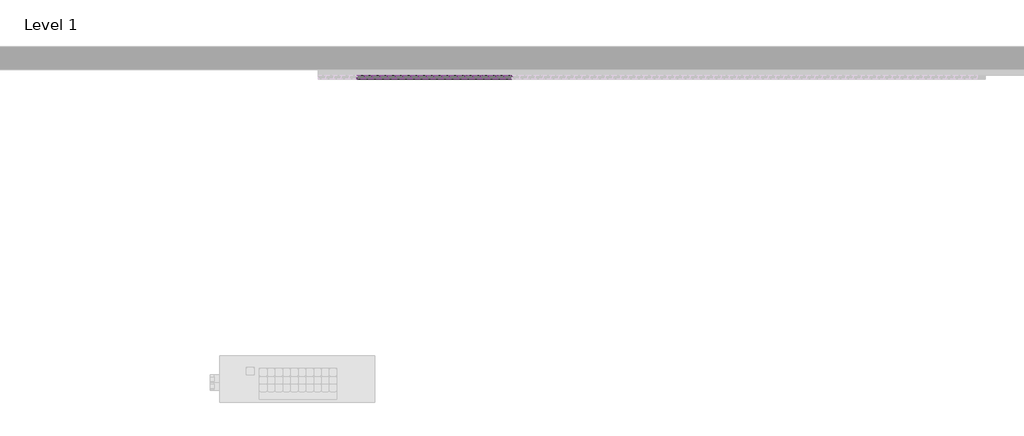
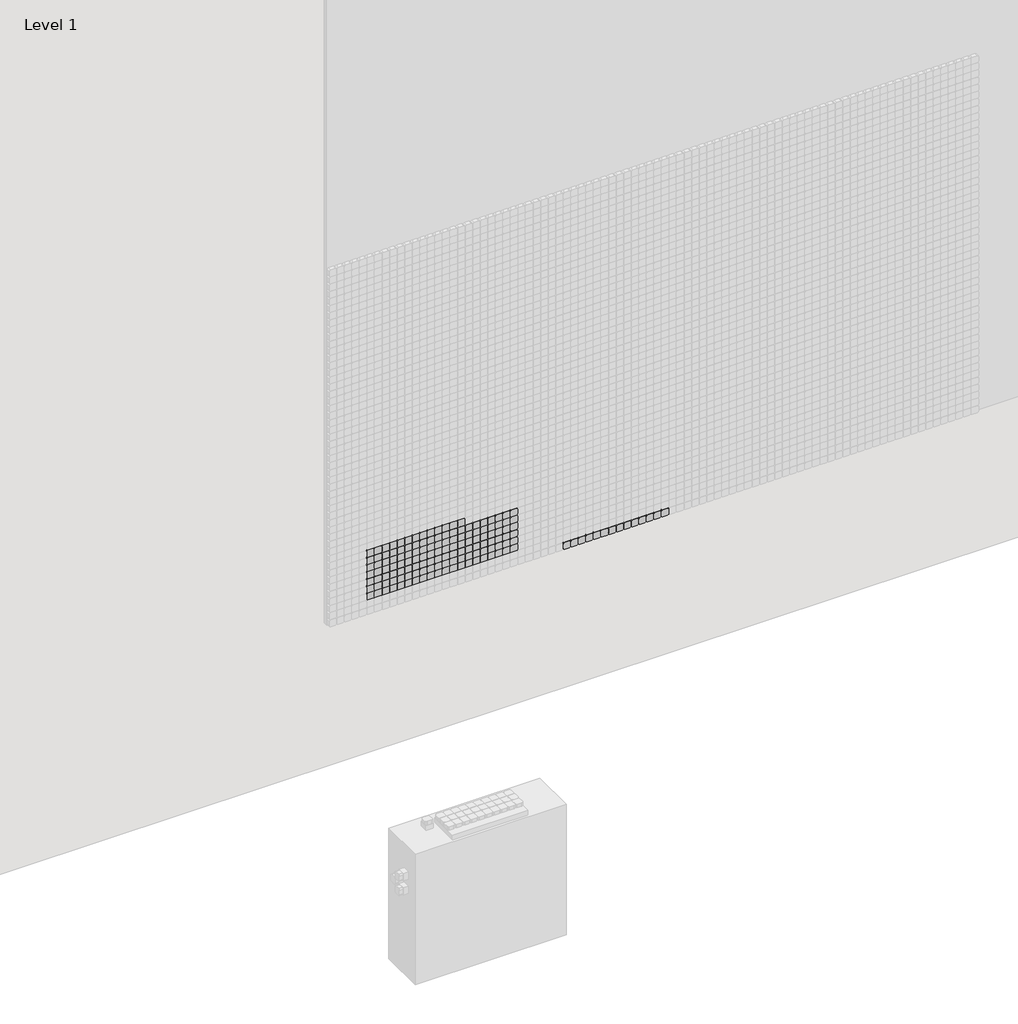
# One storey, part 20 of 71: 147 proxies.
"""IFC4 building model written with IfcOpenShell, lengths in millimetres."""

from ifc_helpers import new_model, si_unit, origin, place, context, project, spatial, transform, mapped, element, save
from components import generic_models_afde289c

model = new_model("IFC4")

# Units and contexts
model_context = context("Model", 3, world=origin())
ifc_project = project(units=[si_unit("LENGTHUNIT", "METRE", prefix="MILLI")], contexts=[model_context])

# Site, building, storey
site = spatial("IfcSite", under=ifc_project)
building = spatial("IfcBuilding", under=site)
storey = spatial("IfcBuildingStorey", under=building, Name="Level 1", Elevation=0.0)

# Proxies
placement = place(None, origin())
generic_models_shape = generic_models_afde289c(model_context)
element("IfcBuildingElementProxy", 1, Name="Pixel_M : Pixel_M", ObjectType="Pixel_M : Pixel_M", at=placement, inside=storey, context=model_context, shape_type="MappedRepresentation", body=[
    mapped(generic_models_shape, transform((6962.4280941, -75.0, 1016.3566215), x_axis=(1.0, 0.0, 0.0), y_axis=(0.0, 0.0, 1.0), z_axis=(0.0, -1.0, 0.0))),
])
element("IfcBuildingElementProxy", 2, Name="Pixel_M : Pixel_M", ObjectType="Pixel_M : Pixel_M", at=placement, inside=storey, context=model_context, shape_type="MappedRepresentation", body=[
    mapped(generic_models_shape, transform((6912.4280941, -75.0, 1016.3566215), x_axis=(1.0, 0.0, 0.0), y_axis=(0.0, 0.0, 1.0), z_axis=(0.0, -1.0, 0.0))),
])
element("IfcBuildingElementProxy", 3, Name="Pixel_M : Pixel_M", ObjectType="Pixel_M : Pixel_M", at=placement, inside=storey, context=model_context, shape_type="MappedRepresentation", body=[
    mapped(generic_models_shape, transform((6862.4280941, -75.0, 1016.3566215), x_axis=(1.0, 0.0, 0.0), y_axis=(0.0, 0.0, 1.0), z_axis=(0.0, -1.0, 0.0))),
])
element("IfcBuildingElementProxy", 4, Name="Pixel_M : Pixel_M", ObjectType="Pixel_M : Pixel_M", at=placement, inside=storey, context=model_context, shape_type="MappedRepresentation", body=[
    mapped(generic_models_shape, transform((6812.4280941, -75.0, 1016.3566215), x_axis=(1.0, 0.0, 0.0), y_axis=(0.0, 0.0, 1.0), z_axis=(0.0, -1.0, 0.0))),
])
element("IfcBuildingElementProxy", 5, Name="Pixel_M : Pixel_M", ObjectType="Pixel_M : Pixel_M", at=placement, inside=storey, context=model_context, shape_type="MappedRepresentation", body=[
    mapped(generic_models_shape, transform((6762.4280941, -75.0, 1016.3566215), x_axis=(1.0, 0.0, 0.0), y_axis=(0.0, 0.0, 1.0), z_axis=(0.0, -1.0, 0.0))),
])
element("IfcBuildingElementProxy", 6, Name="Pixel_M : Pixel_M", ObjectType="Pixel_M : Pixel_M", at=placement, inside=storey, context=model_context, shape_type="MappedRepresentation", body=[
    mapped(generic_models_shape, transform((6712.4280941, -75.0, 1016.3566215), x_axis=(1.0, 0.0, 0.0), y_axis=(0.0, 0.0, 1.0), z_axis=(0.0, -1.0, 0.0))),
])
element("IfcBuildingElementProxy", 7, Name="Pixel_M : Pixel_M", ObjectType="Pixel_M : Pixel_M", at=placement, inside=storey, context=model_context, shape_type="MappedRepresentation", body=[
    mapped(generic_models_shape, transform((6662.4280941, -75.0, 1016.3566215), x_axis=(1.0, 0.0, 0.0), y_axis=(0.0, 0.0, 1.0), z_axis=(0.0, -1.0, 0.0))),
])
element("IfcBuildingElementProxy", 8, Name="Pixel_M : Pixel_M", ObjectType="Pixel_M : Pixel_M", at=placement, inside=storey, context=model_context, shape_type="MappedRepresentation", body=[
    mapped(generic_models_shape, transform((6612.4280941, -75.0, 1016.3566215), x_axis=(1.0, 0.0, 0.0), y_axis=(0.0, 0.0, 1.0), z_axis=(0.0, -1.0, 0.0))),
])
element("IfcBuildingElementProxy", 9, Name="Pixel_M : Pixel_M", ObjectType="Pixel_M : Pixel_M", at=placement, inside=storey, context=model_context, shape_type="MappedRepresentation", body=[
    mapped(generic_models_shape, transform((6562.4280941, -75.0, 1016.3566215), x_axis=(1.0, 0.0, 0.0), y_axis=(0.0, 0.0, 1.0), z_axis=(0.0, -1.0, 0.0))),
])
element("IfcBuildingElementProxy", 10, Name="Pixel_M : Pixel_M", ObjectType="Pixel_M : Pixel_M", at=placement, inside=storey, context=model_context, shape_type="MappedRepresentation", body=[
    mapped(generic_models_shape, transform((6512.4280941, -75.0, 1016.3566215), x_axis=(1.0, 0.0, 0.0), y_axis=(0.0, 0.0, 1.0), z_axis=(0.0, -1.0, 0.0))),
])
element("IfcBuildingElementProxy", 11, Name="Pixel_M : Pixel_M", ObjectType="Pixel_M : Pixel_M", at=placement, inside=storey, context=model_context, shape_type="MappedRepresentation", body=[
    mapped(generic_models_shape, transform((6462.4280941, -75.0, 1016.3566215), x_axis=(1.0, 0.0, 0.0), y_axis=(0.0, 0.0, 1.0), z_axis=(0.0, -1.0, 0.0))),
])
element("IfcBuildingElementProxy", 12, Name="Pixel_M : Pixel_M", ObjectType="Pixel_M : Pixel_M", at=placement, inside=storey, context=model_context, shape_type="MappedRepresentation", body=[
    mapped(generic_models_shape, transform((6412.4280941, -75.0, 1016.3566215), x_axis=(1.0, 0.0, 0.0), y_axis=(0.0, 0.0, 1.0), z_axis=(0.0, -1.0, 0.0))),
])
element("IfcBuildingElementProxy", 13, Name="Pixel_M : Pixel_M", ObjectType="Pixel_M : Pixel_M", at=placement, inside=storey, context=model_context, shape_type="MappedRepresentation", body=[
    mapped(generic_models_shape, transform((6362.4280941, -75.0, 1016.3566215), x_axis=(1.0, 0.0, 0.0), y_axis=(0.0, 0.0, 1.0), z_axis=(0.0, -1.0, 0.0))),
])
element("IfcBuildingElementProxy", 14, Name="Pixel_M : Pixel_M", ObjectType="Pixel_M : Pixel_M", at=placement, inside=storey, context=model_context, shape_type="MappedRepresentation", body=[
    mapped(generic_models_shape, transform((6312.4280941, -75.0, 1016.3566215), x_axis=(1.0, 0.0, 0.0), y_axis=(0.0, 0.0, 1.0), z_axis=(0.0, -1.0, 0.0))),
])
element("IfcBuildingElementProxy", 15, Name="Pixel_M : Pixel_M", ObjectType="Pixel_M : Pixel_M", at=placement, inside=storey, context=model_context, shape_type="MappedRepresentation", body=[
    mapped(generic_models_shape, transform((5612.4280941, -75.0, 1416.3566215), x_axis=(1.0, 0.0, 0.0), y_axis=(0.0, 0.0, 1.0), z_axis=(0.0, -1.0, 0.0))),
])
element("IfcBuildingElementProxy", 16, Name="Pixel_M : Pixel_M", ObjectType="Pixel_M : Pixel_M", at=placement, inside=storey, context=model_context, shape_type="MappedRepresentation", body=[
    mapped(generic_models_shape, transform((5562.4280941, -75.0, 1416.3566215), x_axis=(1.0, 0.0, 0.0), y_axis=(0.0, 0.0, 1.0), z_axis=(0.0, -1.0, 0.0))),
])
element("IfcBuildingElementProxy", 17, Name="Pixel_M : Pixel_M", ObjectType="Pixel_M : Pixel_M", at=placement, inside=storey, context=model_context, shape_type="MappedRepresentation", body=[
    mapped(generic_models_shape, transform((5512.4280941, -75.0, 1416.3566215), x_axis=(1.0, 0.0, 0.0), y_axis=(0.0, 0.0, 1.0), z_axis=(0.0, -1.0, 0.0))),
])
element("IfcBuildingElementProxy", 18, Name="Pixel_M : Pixel_M", ObjectType="Pixel_M : Pixel_M", at=placement, inside=storey, context=model_context, shape_type="MappedRepresentation", body=[
    mapped(generic_models_shape, transform((5462.4280941, -75.0, 1416.3566215), x_axis=(1.0, 0.0, 0.0), y_axis=(0.0, 0.0, 1.0), z_axis=(0.0, -1.0, 0.0))),
])
element("IfcBuildingElementProxy", 19, Name="Pixel_M : Pixel_M", ObjectType="Pixel_M : Pixel_M", at=placement, inside=storey, context=model_context, shape_type="MappedRepresentation", body=[
    mapped(generic_models_shape, transform((5412.4280941, -75.0, 1416.3566215), x_axis=(1.0, 0.0, 0.0), y_axis=(0.0, 0.0, 1.0), z_axis=(0.0, -1.0, 0.0))),
])
element("IfcBuildingElementProxy", 20, Name="Pixel_M : Pixel_M", ObjectType="Pixel_M : Pixel_M", at=placement, inside=storey, context=model_context, shape_type="MappedRepresentation", body=[
    mapped(generic_models_shape, transform((5362.4280941, -75.0, 1416.3566215), x_axis=(1.0, 0.0, 0.0), y_axis=(0.0, 0.0, 1.0), z_axis=(0.0, -1.0, 0.0))),
])
element("IfcBuildingElementProxy", 21, Name="Pixel_M : Pixel_M", ObjectType="Pixel_M : Pixel_M", at=placement, inside=storey, context=model_context, shape_type="MappedRepresentation", body=[
    mapped(generic_models_shape, transform((5312.4280941, -75.0, 1416.3566215), x_axis=(1.0, 0.0, 0.0), y_axis=(0.0, 0.0, 1.0), z_axis=(0.0, -1.0, 0.0))),
])
element("IfcBuildingElementProxy", 22, Name="Pixel_M : Pixel_M", ObjectType="Pixel_M : Pixel_M", at=placement, inside=storey, context=model_context, shape_type="MappedRepresentation", body=[
    mapped(generic_models_shape, transform((5262.4280941, -75.0, 1416.3566215), x_axis=(1.0, 0.0, 0.0), y_axis=(0.0, 0.0, 1.0), z_axis=(0.0, -1.0, 0.0))),
])
element("IfcBuildingElementProxy", 23, Name="Pixel_M : Pixel_M", ObjectType="Pixel_M : Pixel_M", at=placement, inside=storey, context=model_context, shape_type="MappedRepresentation", body=[
    mapped(generic_models_shape, transform((5212.4280941, -75.0, 1416.3566215), x_axis=(1.0, 0.0, 0.0), y_axis=(0.0, 0.0, 1.0), z_axis=(0.0, -1.0, 0.0))),
])
element("IfcBuildingElementProxy", 24, Name="Pixel_M : Pixel_M", ObjectType="Pixel_M : Pixel_M", at=placement, inside=storey, context=model_context, shape_type="MappedRepresentation", body=[
    mapped(generic_models_shape, transform((5162.4280941, -75.0, 1416.3566215), x_axis=(1.0, 0.0, 0.0), y_axis=(0.0, 0.0, 1.0), z_axis=(0.0, -1.0, 0.0))),
])
element("IfcBuildingElementProxy", 25, Name="Pixel_M : Pixel_M", ObjectType="Pixel_M : Pixel_M", at=placement, inside=storey, context=model_context, shape_type="MappedRepresentation", body=[
    mapped(generic_models_shape, transform((5112.4280941, -75.0, 1416.3566215), x_axis=(1.0, 0.0, 0.0), y_axis=(0.0, 0.0, 1.0), z_axis=(0.0, -1.0, 0.0))),
])
element("IfcBuildingElementProxy", 26, Name="Pixel_M : Pixel_M", ObjectType="Pixel_M : Pixel_M", at=placement, inside=storey, context=model_context, shape_type="MappedRepresentation", body=[
    mapped(generic_models_shape, transform((5062.4280941, -75.0, 1416.3566215), x_axis=(1.0, 0.0, 0.0), y_axis=(0.0, 0.0, 1.0), z_axis=(0.0, -1.0, 0.0))),
])
element("IfcBuildingElementProxy", 27, Name="Pixel_M : Pixel_M", ObjectType="Pixel_M : Pixel_M", at=placement, inside=storey, context=model_context, shape_type="MappedRepresentation", body=[
    mapped(generic_models_shape, transform((5012.4280941, -75.0, 1416.3566215), x_axis=(1.0, 0.0, 0.0), y_axis=(0.0, 0.0, 1.0), z_axis=(0.0, -1.0, 0.0))),
])
element("IfcBuildingElementProxy", 28, Name="Pixel_M : Pixel_M", ObjectType="Pixel_M : Pixel_M", at=placement, inside=storey, context=model_context, shape_type="MappedRepresentation", body=[
    mapped(generic_models_shape, transform((5962.4280941, -75.0, 1366.3566215), x_axis=(1.0, 0.0, 0.0), y_axis=(0.0, 0.0, 1.0), z_axis=(0.0, -1.0, 0.0))),
])
element("IfcBuildingElementProxy", 29, Name="Pixel_M : Pixel_M", ObjectType="Pixel_M : Pixel_M", at=placement, inside=storey, context=model_context, shape_type="MappedRepresentation", body=[
    mapped(generic_models_shape, transform((5912.4280941, -75.0, 1366.3566215), x_axis=(1.0, 0.0, 0.0), y_axis=(0.0, 0.0, 1.0), z_axis=(0.0, -1.0, 0.0))),
])
element("IfcBuildingElementProxy", 30, Name="Pixel_M : Pixel_M", ObjectType="Pixel_M : Pixel_M", at=placement, inside=storey, context=model_context, shape_type="MappedRepresentation", body=[
    mapped(generic_models_shape, transform((5862.4280941, -75.0, 1366.3566215), x_axis=(1.0, 0.0, 0.0), y_axis=(0.0, 0.0, 1.0), z_axis=(0.0, -1.0, 0.0))),
])
element("IfcBuildingElementProxy", 31, Name="Pixel_M : Pixel_M", ObjectType="Pixel_M : Pixel_M", at=placement, inside=storey, context=model_context, shape_type="MappedRepresentation", body=[
    mapped(generic_models_shape, transform((5812.4280941, -75.0, 1366.3566215), x_axis=(1.0, 0.0, 0.0), y_axis=(0.0, 0.0, 1.0), z_axis=(0.0, -1.0, 0.0))),
])
element("IfcBuildingElementProxy", 32, Name="Pixel_M : Pixel_M", ObjectType="Pixel_M : Pixel_M", at=placement, inside=storey, context=model_context, shape_type="MappedRepresentation", body=[
    mapped(generic_models_shape, transform((5762.4280941, -75.0, 1366.3566215), x_axis=(1.0, 0.0, 0.0), y_axis=(0.0, 0.0, 1.0), z_axis=(0.0, -1.0, 0.0))),
])
element("IfcBuildingElementProxy", 33, Name="Pixel_M : Pixel_M", ObjectType="Pixel_M : Pixel_M", at=placement, inside=storey, context=model_context, shape_type="MappedRepresentation", body=[
    mapped(generic_models_shape, transform((5712.4280941, -75.0, 1366.3566215), x_axis=(1.0, 0.0, 0.0), y_axis=(0.0, 0.0, 1.0), z_axis=(0.0, -1.0, 0.0))),
])
element("IfcBuildingElementProxy", 34, Name="Pixel_M : Pixel_M", ObjectType="Pixel_M : Pixel_M", at=placement, inside=storey, context=model_context, shape_type="MappedRepresentation", body=[
    mapped(generic_models_shape, transform((5662.4280941, -75.0, 1366.3566215), x_axis=(1.0, 0.0, 0.0), y_axis=(0.0, 0.0, 1.0), z_axis=(0.0, -1.0, 0.0))),
])
element("IfcBuildingElementProxy", 35, Name="Pixel_M : Pixel_M", ObjectType="Pixel_M : Pixel_M", at=placement, inside=storey, context=model_context, shape_type="MappedRepresentation", body=[
    mapped(generic_models_shape, transform((5612.4280941, -75.0, 1366.3566215), x_axis=(1.0, 0.0, 0.0), y_axis=(0.0, 0.0, 1.0), z_axis=(0.0, -1.0, 0.0))),
])
element("IfcBuildingElementProxy", 36, Name="Pixel_M : Pixel_M", ObjectType="Pixel_M : Pixel_M", at=placement, inside=storey, context=model_context, shape_type="MappedRepresentation", body=[
    mapped(generic_models_shape, transform((5562.4280941, -75.0, 1366.3566215), x_axis=(1.0, 0.0, 0.0), y_axis=(0.0, 0.0, 1.0), z_axis=(0.0, -1.0, 0.0))),
])
element("IfcBuildingElementProxy", 37, Name="Pixel_M : Pixel_M", ObjectType="Pixel_M : Pixel_M", at=placement, inside=storey, context=model_context, shape_type="MappedRepresentation", body=[
    mapped(generic_models_shape, transform((5512.4280941, -75.0, 1366.3566215), x_axis=(1.0, 0.0, 0.0), y_axis=(0.0, 0.0, 1.0), z_axis=(0.0, -1.0, 0.0))),
])
element("IfcBuildingElementProxy", 38, Name="Pixel_M : Pixel_M", ObjectType="Pixel_M : Pixel_M", at=placement, inside=storey, context=model_context, shape_type="MappedRepresentation", body=[
    mapped(generic_models_shape, transform((5462.4280941, -75.0, 1366.3566215), x_axis=(1.0, 0.0, 0.0), y_axis=(0.0, 0.0, 1.0), z_axis=(0.0, -1.0, 0.0))),
])
element("IfcBuildingElementProxy", 39, Name="Pixel_M : Pixel_M", ObjectType="Pixel_M : Pixel_M", at=placement, inside=storey, context=model_context, shape_type="MappedRepresentation", body=[
    mapped(generic_models_shape, transform((5412.4280941, -75.0, 1366.3566215), x_axis=(1.0, 0.0, 0.0), y_axis=(0.0, 0.0, 1.0), z_axis=(0.0, -1.0, 0.0))),
])
element("IfcBuildingElementProxy", 40, Name="Pixel_M : Pixel_M", ObjectType="Pixel_M : Pixel_M", at=placement, inside=storey, context=model_context, shape_type="MappedRepresentation", body=[
    mapped(generic_models_shape, transform((5362.4280941, -75.0, 1366.3566215), x_axis=(1.0, 0.0, 0.0), y_axis=(0.0, 0.0, 1.0), z_axis=(0.0, -1.0, 0.0))),
])
element("IfcBuildingElementProxy", 41, Name="Pixel_M : Pixel_M", ObjectType="Pixel_M : Pixel_M", at=placement, inside=storey, context=model_context, shape_type="MappedRepresentation", body=[
    mapped(generic_models_shape, transform((5312.4280941, -75.0, 1366.3566215), x_axis=(1.0, 0.0, 0.0), y_axis=(0.0, 0.0, 1.0), z_axis=(0.0, -1.0, 0.0))),
])
element("IfcBuildingElementProxy", 42, Name="Pixel_M : Pixel_M", ObjectType="Pixel_M : Pixel_M", at=placement, inside=storey, context=model_context, shape_type="MappedRepresentation", body=[
    mapped(generic_models_shape, transform((5262.4280941, -75.0, 1366.3566215), x_axis=(1.0, 0.0, 0.0), y_axis=(0.0, 0.0, 1.0), z_axis=(0.0, -1.0, 0.0))),
])
element("IfcBuildingElementProxy", 43, Name="Pixel_M : Pixel_M", ObjectType="Pixel_M : Pixel_M", at=placement, inside=storey, context=model_context, shape_type="MappedRepresentation", body=[
    mapped(generic_models_shape, transform((5212.4280941, -75.0, 1366.3566215), x_axis=(1.0, 0.0, 0.0), y_axis=(0.0, 0.0, 1.0), z_axis=(0.0, -1.0, 0.0))),
])
element("IfcBuildingElementProxy", 44, Name="Pixel_M : Pixel_M", ObjectType="Pixel_M : Pixel_M", at=placement, inside=storey, context=model_context, shape_type="MappedRepresentation", body=[
    mapped(generic_models_shape, transform((5162.4280941, -75.0, 1366.3566215), x_axis=(1.0, 0.0, 0.0), y_axis=(0.0, 0.0, 1.0), z_axis=(0.0, -1.0, 0.0))),
])
element("IfcBuildingElementProxy", 45, Name="Pixel_M : Pixel_M", ObjectType="Pixel_M : Pixel_M", at=placement, inside=storey, context=model_context, shape_type="MappedRepresentation", body=[
    mapped(generic_models_shape, transform((5112.4280941, -75.0, 1366.3566215), x_axis=(1.0, 0.0, 0.0), y_axis=(0.0, 0.0, 1.0), z_axis=(0.0, -1.0, 0.0))),
])
element("IfcBuildingElementProxy", 46, Name="Pixel_M : Pixel_M", ObjectType="Pixel_M : Pixel_M", at=placement, inside=storey, context=model_context, shape_type="MappedRepresentation", body=[
    mapped(generic_models_shape, transform((5062.4280941, -75.0, 1366.3566215), x_axis=(1.0, 0.0, 0.0), y_axis=(0.0, 0.0, 1.0), z_axis=(0.0, -1.0, 0.0))),
])
element("IfcBuildingElementProxy", 47, Name="Pixel_M : Pixel_M", ObjectType="Pixel_M : Pixel_M", at=placement, inside=storey, context=model_context, shape_type="MappedRepresentation", body=[
    mapped(generic_models_shape, transform((5012.4280941, -75.0, 1366.3566215), x_axis=(1.0, 0.0, 0.0), y_axis=(0.0, 0.0, 1.0), z_axis=(0.0, -1.0, 0.0))),
])
element("IfcBuildingElementProxy", 48, Name="Pixel_M : Pixel_M", ObjectType="Pixel_M : Pixel_M", at=placement, inside=storey, context=model_context, shape_type="MappedRepresentation", body=[
    mapped(generic_models_shape, transform((5962.4280941, -75.0, 1316.3566215), x_axis=(1.0, 0.0, 0.0), y_axis=(0.0, 0.0, 1.0), z_axis=(0.0, -1.0, 0.0))),
])
element("IfcBuildingElementProxy", 49, Name="Pixel_M : Pixel_M", ObjectType="Pixel_M : Pixel_M", at=placement, inside=storey, context=model_context, shape_type="MappedRepresentation", body=[
    mapped(generic_models_shape, transform((5912.4280941, -75.0, 1316.3566215), x_axis=(1.0, 0.0, 0.0), y_axis=(0.0, 0.0, 1.0), z_axis=(0.0, -1.0, 0.0))),
])
element("IfcBuildingElementProxy", 50, Name="Pixel_M : Pixel_M", ObjectType="Pixel_M : Pixel_M", at=placement, inside=storey, context=model_context, shape_type="MappedRepresentation", body=[
    mapped(generic_models_shape, transform((5862.4280941, -75.0, 1316.3566215), x_axis=(1.0, 0.0, 0.0), y_axis=(0.0, 0.0, 1.0), z_axis=(0.0, -1.0, 0.0))),
])
element("IfcBuildingElementProxy", 51, Name="Pixel_M : Pixel_M", ObjectType="Pixel_M : Pixel_M", at=placement, inside=storey, context=model_context, shape_type="MappedRepresentation", body=[
    mapped(generic_models_shape, transform((5812.4280941, -75.0, 1316.3566215), x_axis=(1.0, 0.0, 0.0), y_axis=(0.0, 0.0, 1.0), z_axis=(0.0, -1.0, 0.0))),
])
element("IfcBuildingElementProxy", 52, Name="Pixel_M : Pixel_M", ObjectType="Pixel_M : Pixel_M", at=placement, inside=storey, context=model_context, shape_type="MappedRepresentation", body=[
    mapped(generic_models_shape, transform((5762.4280941, -75.0, 1316.3566215), x_axis=(1.0, 0.0, 0.0), y_axis=(0.0, 0.0, 1.0), z_axis=(0.0, -1.0, 0.0))),
])
element("IfcBuildingElementProxy", 53, Name="Pixel_M : Pixel_M", ObjectType="Pixel_M : Pixel_M", at=placement, inside=storey, context=model_context, shape_type="MappedRepresentation", body=[
    mapped(generic_models_shape, transform((5712.4280941, -75.0, 1316.3566215), x_axis=(1.0, 0.0, 0.0), y_axis=(0.0, 0.0, 1.0), z_axis=(0.0, -1.0, 0.0))),
])
element("IfcBuildingElementProxy", 54, Name="Pixel_M : Pixel_M", ObjectType="Pixel_M : Pixel_M", at=placement, inside=storey, context=model_context, shape_type="MappedRepresentation", body=[
    mapped(generic_models_shape, transform((5662.4280941, -75.0, 1316.3566215), x_axis=(1.0, 0.0, 0.0), y_axis=(0.0, 0.0, 1.0), z_axis=(0.0, -1.0, 0.0))),
])
element("IfcBuildingElementProxy", 55, Name="Pixel_M : Pixel_M", ObjectType="Pixel_M : Pixel_M", at=placement, inside=storey, context=model_context, shape_type="MappedRepresentation", body=[
    mapped(generic_models_shape, transform((5612.4280941, -75.0, 1316.3566215), x_axis=(1.0, 0.0, 0.0), y_axis=(0.0, 0.0, 1.0), z_axis=(0.0, -1.0, 0.0))),
])
element("IfcBuildingElementProxy", 56, Name="Pixel_M : Pixel_M", ObjectType="Pixel_M : Pixel_M", at=placement, inside=storey, context=model_context, shape_type="MappedRepresentation", body=[
    mapped(generic_models_shape, transform((5562.4280941, -75.0, 1316.3566215), x_axis=(1.0, 0.0, 0.0), y_axis=(0.0, 0.0, 1.0), z_axis=(0.0, -1.0, 0.0))),
])
element("IfcBuildingElementProxy", 57, Name="Pixel_M : Pixel_M", ObjectType="Pixel_M : Pixel_M", at=placement, inside=storey, context=model_context, shape_type="MappedRepresentation", body=[
    mapped(generic_models_shape, transform((5512.4280941, -75.0, 1316.3566215), x_axis=(1.0, 0.0, 0.0), y_axis=(0.0, 0.0, 1.0), z_axis=(0.0, -1.0, 0.0))),
])
element("IfcBuildingElementProxy", 58, Name="Pixel_M : Pixel_M", ObjectType="Pixel_M : Pixel_M", at=placement, inside=storey, context=model_context, shape_type="MappedRepresentation", body=[
    mapped(generic_models_shape, transform((5462.4280941, -75.0, 1316.3566215), x_axis=(1.0, 0.0, 0.0), y_axis=(0.0, 0.0, 1.0), z_axis=(0.0, -1.0, 0.0))),
])
element("IfcBuildingElementProxy", 59, Name="Pixel_M : Pixel_M", ObjectType="Pixel_M : Pixel_M", at=placement, inside=storey, context=model_context, shape_type="MappedRepresentation", body=[
    mapped(generic_models_shape, transform((5412.4280941, -75.0, 1316.3566215), x_axis=(1.0, 0.0, 0.0), y_axis=(0.0, 0.0, 1.0), z_axis=(0.0, -1.0, 0.0))),
])
element("IfcBuildingElementProxy", 60, Name="Pixel_M : Pixel_M", ObjectType="Pixel_M : Pixel_M", at=placement, inside=storey, context=model_context, shape_type="MappedRepresentation", body=[
    mapped(generic_models_shape, transform((5362.4280941, -75.0, 1316.3566215), x_axis=(1.0, 0.0, 0.0), y_axis=(0.0, 0.0, 1.0), z_axis=(0.0, -1.0, 0.0))),
])
element("IfcBuildingElementProxy", 61, Name="Pixel_M : Pixel_M", ObjectType="Pixel_M : Pixel_M", at=placement, inside=storey, context=model_context, shape_type="MappedRepresentation", body=[
    mapped(generic_models_shape, transform((5312.4280941, -75.0, 1316.3566215), x_axis=(1.0, 0.0, 0.0), y_axis=(0.0, 0.0, 1.0), z_axis=(0.0, -1.0, 0.0))),
])
element("IfcBuildingElementProxy", 62, Name="Pixel_M : Pixel_M", ObjectType="Pixel_M : Pixel_M", at=placement, inside=storey, context=model_context, shape_type="MappedRepresentation", body=[
    mapped(generic_models_shape, transform((5262.4280941, -75.0, 1316.3566215), x_axis=(1.0, 0.0, 0.0), y_axis=(0.0, 0.0, 1.0), z_axis=(0.0, -1.0, 0.0))),
])
element("IfcBuildingElementProxy", 63, Name="Pixel_M : Pixel_M", ObjectType="Pixel_M : Pixel_M", at=placement, inside=storey, context=model_context, shape_type="MappedRepresentation", body=[
    mapped(generic_models_shape, transform((5212.4280941, -75.0, 1316.3566215), x_axis=(1.0, 0.0, 0.0), y_axis=(0.0, 0.0, 1.0), z_axis=(0.0, -1.0, 0.0))),
])
element("IfcBuildingElementProxy", 64, Name="Pixel_M : Pixel_M", ObjectType="Pixel_M : Pixel_M", at=placement, inside=storey, context=model_context, shape_type="MappedRepresentation", body=[
    mapped(generic_models_shape, transform((5162.4280941, -75.0, 1316.3566215), x_axis=(1.0, 0.0, 0.0), y_axis=(0.0, 0.0, 1.0), z_axis=(0.0, -1.0, 0.0))),
])
element("IfcBuildingElementProxy", 65, Name="Pixel_M : Pixel_M", ObjectType="Pixel_M : Pixel_M", at=placement, inside=storey, context=model_context, shape_type="MappedRepresentation", body=[
    mapped(generic_models_shape, transform((5112.4280941, -75.0, 1316.3566215), x_axis=(1.0, 0.0, 0.0), y_axis=(0.0, 0.0, 1.0), z_axis=(0.0, -1.0, 0.0))),
])
element("IfcBuildingElementProxy", 66, Name="Pixel_M : Pixel_M", ObjectType="Pixel_M : Pixel_M", at=placement, inside=storey, context=model_context, shape_type="MappedRepresentation", body=[
    mapped(generic_models_shape, transform((5062.4280941, -75.0, 1316.3566215), x_axis=(1.0, 0.0, 0.0), y_axis=(0.0, 0.0, 1.0), z_axis=(0.0, -1.0, 0.0))),
])
element("IfcBuildingElementProxy", 67, Name="Pixel_M : Pixel_M", ObjectType="Pixel_M : Pixel_M", at=placement, inside=storey, context=model_context, shape_type="MappedRepresentation", body=[
    mapped(generic_models_shape, transform((5012.4280941, -75.0, 1316.3566215), x_axis=(1.0, 0.0, 0.0), y_axis=(0.0, 0.0, 1.0), z_axis=(0.0, -1.0, 0.0))),
])
element("IfcBuildingElementProxy", 68, Name="Pixel_M : Pixel_M", ObjectType="Pixel_M : Pixel_M", at=placement, inside=storey, context=model_context, shape_type="MappedRepresentation", body=[
    mapped(generic_models_shape, transform((5962.4280941, -75.0, 1266.3566215), x_axis=(1.0, 0.0, 0.0), y_axis=(0.0, 0.0, 1.0), z_axis=(0.0, -1.0, 0.0))),
])
element("IfcBuildingElementProxy", 69, Name="Pixel_M : Pixel_M", ObjectType="Pixel_M : Pixel_M", at=placement, inside=storey, context=model_context, shape_type="MappedRepresentation", body=[
    mapped(generic_models_shape, transform((5912.4280941, -75.0, 1266.3566215), x_axis=(1.0, 0.0, 0.0), y_axis=(0.0, 0.0, 1.0), z_axis=(0.0, -1.0, 0.0))),
])
element("IfcBuildingElementProxy", 70, Name="Pixel_M : Pixel_M", ObjectType="Pixel_M : Pixel_M", at=placement, inside=storey, context=model_context, shape_type="MappedRepresentation", body=[
    mapped(generic_models_shape, transform((5862.4280941, -75.0, 1266.3566215), x_axis=(1.0, 0.0, 0.0), y_axis=(0.0, 0.0, 1.0), z_axis=(0.0, -1.0, 0.0))),
])
element("IfcBuildingElementProxy", 71, Name="Pixel_M : Pixel_M", ObjectType="Pixel_M : Pixel_M", at=placement, inside=storey, context=model_context, shape_type="MappedRepresentation", body=[
    mapped(generic_models_shape, transform((5812.4280941, -75.0, 1266.3566215), x_axis=(1.0, 0.0, 0.0), y_axis=(0.0, 0.0, 1.0), z_axis=(0.0, -1.0, 0.0))),
])
element("IfcBuildingElementProxy", 72, Name="Pixel_M : Pixel_M", ObjectType="Pixel_M : Pixel_M", at=placement, inside=storey, context=model_context, shape_type="MappedRepresentation", body=[
    mapped(generic_models_shape, transform((5762.4280941, -75.0, 1266.3566215), x_axis=(1.0, 0.0, 0.0), y_axis=(0.0, 0.0, 1.0), z_axis=(0.0, -1.0, 0.0))),
])
element("IfcBuildingElementProxy", 73, Name="Pixel_M : Pixel_M", ObjectType="Pixel_M : Pixel_M", at=placement, inside=storey, context=model_context, shape_type="MappedRepresentation", body=[
    mapped(generic_models_shape, transform((5712.4280941, -75.0, 1266.3566215), x_axis=(1.0, 0.0, 0.0), y_axis=(0.0, 0.0, 1.0), z_axis=(0.0, -1.0, 0.0))),
])
element("IfcBuildingElementProxy", 74, Name="Pixel_M : Pixel_M", ObjectType="Pixel_M : Pixel_M", at=placement, inside=storey, context=model_context, shape_type="MappedRepresentation", body=[
    mapped(generic_models_shape, transform((5662.4280941, -75.0, 1266.3566215), x_axis=(1.0, 0.0, 0.0), y_axis=(0.0, 0.0, 1.0), z_axis=(0.0, -1.0, 0.0))),
])
element("IfcBuildingElementProxy", 75, Name="Pixel_M : Pixel_M", ObjectType="Pixel_M : Pixel_M", at=placement, inside=storey, context=model_context, shape_type="MappedRepresentation", body=[
    mapped(generic_models_shape, transform((5612.4280941, -75.0, 1266.3566215), x_axis=(1.0, 0.0, 0.0), y_axis=(0.0, 0.0, 1.0), z_axis=(0.0, -1.0, 0.0))),
])
element("IfcBuildingElementProxy", 76, Name="Pixel_M : Pixel_M", ObjectType="Pixel_M : Pixel_M", at=placement, inside=storey, context=model_context, shape_type="MappedRepresentation", body=[
    mapped(generic_models_shape, transform((5562.4280941, -75.0, 1266.3566215), x_axis=(1.0, 0.0, 0.0), y_axis=(0.0, 0.0, 1.0), z_axis=(0.0, -1.0, 0.0))),
])
element("IfcBuildingElementProxy", 77, Name="Pixel_M : Pixel_M", ObjectType="Pixel_M : Pixel_M", at=placement, inside=storey, context=model_context, shape_type="MappedRepresentation", body=[
    mapped(generic_models_shape, transform((5512.4280941, -75.0, 1266.3566215), x_axis=(1.0, 0.0, 0.0), y_axis=(0.0, 0.0, 1.0), z_axis=(0.0, -1.0, 0.0))),
])
element("IfcBuildingElementProxy", 78, Name="Pixel_M : Pixel_M", ObjectType="Pixel_M : Pixel_M", at=placement, inside=storey, context=model_context, shape_type="MappedRepresentation", body=[
    mapped(generic_models_shape, transform((5462.4280941, -75.0, 1266.3566215), x_axis=(1.0, 0.0, 0.0), y_axis=(0.0, 0.0, 1.0), z_axis=(0.0, -1.0, 0.0))),
])
element("IfcBuildingElementProxy", 79, Name="Pixel_M : Pixel_M", ObjectType="Pixel_M : Pixel_M", at=placement, inside=storey, context=model_context, shape_type="MappedRepresentation", body=[
    mapped(generic_models_shape, transform((5412.4280941, -75.0, 1266.3566215), x_axis=(1.0, 0.0, 0.0), y_axis=(0.0, 0.0, 1.0), z_axis=(0.0, -1.0, 0.0))),
])
element("IfcBuildingElementProxy", 80, Name="Pixel_M : Pixel_M", ObjectType="Pixel_M : Pixel_M", at=placement, inside=storey, context=model_context, shape_type="MappedRepresentation", body=[
    mapped(generic_models_shape, transform((5362.4280941, -75.0, 1266.3566215), x_axis=(1.0, 0.0, 0.0), y_axis=(0.0, 0.0, 1.0), z_axis=(0.0, -1.0, 0.0))),
])
element("IfcBuildingElementProxy", 81, Name="Pixel_M : Pixel_M", ObjectType="Pixel_M : Pixel_M", at=placement, inside=storey, context=model_context, shape_type="MappedRepresentation", body=[
    mapped(generic_models_shape, transform((5312.4280941, -75.0, 1266.3566215), x_axis=(1.0, 0.0, 0.0), y_axis=(0.0, 0.0, 1.0), z_axis=(0.0, -1.0, 0.0))),
])
element("IfcBuildingElementProxy", 82, Name="Pixel_M : Pixel_M", ObjectType="Pixel_M : Pixel_M", at=placement, inside=storey, context=model_context, shape_type="MappedRepresentation", body=[
    mapped(generic_models_shape, transform((5262.4280941, -75.0, 1266.3566215), x_axis=(1.0, 0.0, 0.0), y_axis=(0.0, 0.0, 1.0), z_axis=(0.0, -1.0, 0.0))),
])
element("IfcBuildingElementProxy", 83, Name="Pixel_M : Pixel_M", ObjectType="Pixel_M : Pixel_M", at=placement, inside=storey, context=model_context, shape_type="MappedRepresentation", body=[
    mapped(generic_models_shape, transform((5212.4280941, -75.0, 1266.3566215), x_axis=(1.0, 0.0, 0.0), y_axis=(0.0, 0.0, 1.0), z_axis=(0.0, -1.0, 0.0))),
])
element("IfcBuildingElementProxy", 84, Name="Pixel_M : Pixel_M", ObjectType="Pixel_M : Pixel_M", at=placement, inside=storey, context=model_context, shape_type="MappedRepresentation", body=[
    mapped(generic_models_shape, transform((5162.4280941, -75.0, 1266.3566215), x_axis=(1.0, 0.0, 0.0), y_axis=(0.0, 0.0, 1.0), z_axis=(0.0, -1.0, 0.0))),
])
element("IfcBuildingElementProxy", 85, Name="Pixel_M : Pixel_M", ObjectType="Pixel_M : Pixel_M", at=placement, inside=storey, context=model_context, shape_type="MappedRepresentation", body=[
    mapped(generic_models_shape, transform((5112.4280941, -75.0, 1266.3566215), x_axis=(1.0, 0.0, 0.0), y_axis=(0.0, 0.0, 1.0), z_axis=(0.0, -1.0, 0.0))),
])
element("IfcBuildingElementProxy", 86, Name="Pixel_M : Pixel_M", ObjectType="Pixel_M : Pixel_M", at=placement, inside=storey, context=model_context, shape_type="MappedRepresentation", body=[
    mapped(generic_models_shape, transform((5062.4280941, -75.0, 1266.3566215), x_axis=(1.0, 0.0, 0.0), y_axis=(0.0, 0.0, 1.0), z_axis=(0.0, -1.0, 0.0))),
])
element("IfcBuildingElementProxy", 87, Name="Pixel_M : Pixel_M", ObjectType="Pixel_M : Pixel_M", at=placement, inside=storey, context=model_context, shape_type="MappedRepresentation", body=[
    mapped(generic_models_shape, transform((5012.4280941, -75.0, 1266.3566215), x_axis=(1.0, 0.0, 0.0), y_axis=(0.0, 0.0, 1.0), z_axis=(0.0, -1.0, 0.0))),
])
element("IfcBuildingElementProxy", 88, Name="Pixel_M : Pixel_M", ObjectType="Pixel_M : Pixel_M", at=placement, inside=storey, context=model_context, shape_type="MappedRepresentation", body=[
    mapped(generic_models_shape, transform((5962.4280941, -75.0, 1216.3566215), x_axis=(1.0, 0.0, 0.0), y_axis=(0.0, 0.0, 1.0), z_axis=(0.0, -1.0, 0.0))),
])
element("IfcBuildingElementProxy", 89, Name="Pixel_M : Pixel_M", ObjectType="Pixel_M : Pixel_M", at=placement, inside=storey, context=model_context, shape_type="MappedRepresentation", body=[
    mapped(generic_models_shape, transform((5912.4280941, -75.0, 1216.3566215), x_axis=(1.0, 0.0, 0.0), y_axis=(0.0, 0.0, 1.0), z_axis=(0.0, -1.0, 0.0))),
])
element("IfcBuildingElementProxy", 90, Name="Pixel_M : Pixel_M", ObjectType="Pixel_M : Pixel_M", at=placement, inside=storey, context=model_context, shape_type="MappedRepresentation", body=[
    mapped(generic_models_shape, transform((5862.4280941, -75.0, 1216.3566215), x_axis=(1.0, 0.0, 0.0), y_axis=(0.0, 0.0, 1.0), z_axis=(0.0, -1.0, 0.0))),
])
element("IfcBuildingElementProxy", 91, Name="Pixel_M : Pixel_M", ObjectType="Pixel_M : Pixel_M", at=placement, inside=storey, context=model_context, shape_type="MappedRepresentation", body=[
    mapped(generic_models_shape, transform((5812.4280941, -75.0, 1216.3566215), x_axis=(1.0, 0.0, 0.0), y_axis=(0.0, 0.0, 1.0), z_axis=(0.0, -1.0, 0.0))),
])
element("IfcBuildingElementProxy", 92, Name="Pixel_M : Pixel_M", ObjectType="Pixel_M : Pixel_M", at=placement, inside=storey, context=model_context, shape_type="MappedRepresentation", body=[
    mapped(generic_models_shape, transform((5762.4280941, -75.0, 1216.3566215), x_axis=(1.0, 0.0, 0.0), y_axis=(0.0, 0.0, 1.0), z_axis=(0.0, -1.0, 0.0))),
])
element("IfcBuildingElementProxy", 93, Name="Pixel_M : Pixel_M", ObjectType="Pixel_M : Pixel_M", at=placement, inside=storey, context=model_context, shape_type="MappedRepresentation", body=[
    mapped(generic_models_shape, transform((5712.4280941, -75.0, 1216.3566215), x_axis=(1.0, 0.0, 0.0), y_axis=(0.0, 0.0, 1.0), z_axis=(0.0, -1.0, 0.0))),
])
element("IfcBuildingElementProxy", 94, Name="Pixel_M : Pixel_M", ObjectType="Pixel_M : Pixel_M", at=placement, inside=storey, context=model_context, shape_type="MappedRepresentation", body=[
    mapped(generic_models_shape, transform((5662.4280941, -75.0, 1216.3566215), x_axis=(1.0, 0.0, 0.0), y_axis=(0.0, 0.0, 1.0), z_axis=(0.0, -1.0, 0.0))),
])
element("IfcBuildingElementProxy", 95, Name="Pixel_M : Pixel_M", ObjectType="Pixel_M : Pixel_M", at=placement, inside=storey, context=model_context, shape_type="MappedRepresentation", body=[
    mapped(generic_models_shape, transform((5612.4280941, -75.0, 1216.3566215), x_axis=(1.0, 0.0, 0.0), y_axis=(0.0, 0.0, 1.0), z_axis=(0.0, -1.0, 0.0))),
])
element("IfcBuildingElementProxy", 96, Name="Pixel_M : Pixel_M", ObjectType="Pixel_M : Pixel_M", at=placement, inside=storey, context=model_context, shape_type="MappedRepresentation", body=[
    mapped(generic_models_shape, transform((5562.4280941, -75.0, 1216.3566215), x_axis=(1.0, 0.0, 0.0), y_axis=(0.0, 0.0, 1.0), z_axis=(0.0, -1.0, 0.0))),
])
element("IfcBuildingElementProxy", 97, Name="Pixel_M : Pixel_M", ObjectType="Pixel_M : Pixel_M", at=placement, inside=storey, context=model_context, shape_type="MappedRepresentation", body=[
    mapped(generic_models_shape, transform((5512.4280941, -75.0, 1216.3566215), x_axis=(1.0, 0.0, 0.0), y_axis=(0.0, 0.0, 1.0), z_axis=(0.0, -1.0, 0.0))),
])
element("IfcBuildingElementProxy", 98, Name="Pixel_M : Pixel_M", ObjectType="Pixel_M : Pixel_M", at=placement, inside=storey, context=model_context, shape_type="MappedRepresentation", body=[
    mapped(generic_models_shape, transform((5462.4280941, -75.0, 1216.3566215), x_axis=(1.0, 0.0, 0.0), y_axis=(0.0, 0.0, 1.0), z_axis=(0.0, -1.0, 0.0))),
])
element("IfcBuildingElementProxy", 99, Name="Pixel_M : Pixel_M", ObjectType="Pixel_M : Pixel_M", at=placement, inside=storey, context=model_context, shape_type="MappedRepresentation", body=[
    mapped(generic_models_shape, transform((5412.4280941, -75.0, 1216.3566215), x_axis=(1.0, 0.0, 0.0), y_axis=(0.0, 0.0, 1.0), z_axis=(0.0, -1.0, 0.0))),
])
element("IfcBuildingElementProxy", 100, Name="Pixel_M : Pixel_M", ObjectType="Pixel_M : Pixel_M", at=placement, inside=storey, context=model_context, shape_type="MappedRepresentation", body=[
    mapped(generic_models_shape, transform((5362.4280941, -75.0, 1216.3566215), x_axis=(1.0, 0.0, 0.0), y_axis=(0.0, 0.0, 1.0), z_axis=(0.0, -1.0, 0.0))),
])
element("IfcBuildingElementProxy", 101, Name="Pixel_M : Pixel_M", ObjectType="Pixel_M : Pixel_M", at=placement, inside=storey, context=model_context, shape_type="MappedRepresentation", body=[
    mapped(generic_models_shape, transform((5312.4280941, -75.0, 1216.3566215), x_axis=(1.0, 0.0, 0.0), y_axis=(0.0, 0.0, 1.0), z_axis=(0.0, -1.0, 0.0))),
])
element("IfcBuildingElementProxy", 102, Name="Pixel_M : Pixel_M", ObjectType="Pixel_M : Pixel_M", at=placement, inside=storey, context=model_context, shape_type="MappedRepresentation", body=[
    mapped(generic_models_shape, transform((5262.4280941, -75.0, 1216.3566215), x_axis=(1.0, 0.0, 0.0), y_axis=(0.0, 0.0, 1.0), z_axis=(0.0, -1.0, 0.0))),
])
element("IfcBuildingElementProxy", 103, Name="Pixel_M : Pixel_M", ObjectType="Pixel_M : Pixel_M", at=placement, inside=storey, context=model_context, shape_type="MappedRepresentation", body=[
    mapped(generic_models_shape, transform((5212.4280941, -75.0, 1216.3566215), x_axis=(1.0, 0.0, 0.0), y_axis=(0.0, 0.0, 1.0), z_axis=(0.0, -1.0, 0.0))),
])
element("IfcBuildingElementProxy", 104, Name="Pixel_M : Pixel_M", ObjectType="Pixel_M : Pixel_M", at=placement, inside=storey, context=model_context, shape_type="MappedRepresentation", body=[
    mapped(generic_models_shape, transform((5162.4280941, -75.0, 1216.3566215), x_axis=(1.0, 0.0, 0.0), y_axis=(0.0, 0.0, 1.0), z_axis=(0.0, -1.0, 0.0))),
])
element("IfcBuildingElementProxy", 105, Name="Pixel_M : Pixel_M", ObjectType="Pixel_M : Pixel_M", at=placement, inside=storey, context=model_context, shape_type="MappedRepresentation", body=[
    mapped(generic_models_shape, transform((5112.4280941, -75.0, 1216.3566215), x_axis=(1.0, 0.0, 0.0), y_axis=(0.0, 0.0, 1.0), z_axis=(0.0, -1.0, 0.0))),
])
element("IfcBuildingElementProxy", 106, Name="Pixel_M : Pixel_M", ObjectType="Pixel_M : Pixel_M", at=placement, inside=storey, context=model_context, shape_type="MappedRepresentation", body=[
    mapped(generic_models_shape, transform((5062.4280941, -75.0, 1216.3566215), x_axis=(1.0, 0.0, 0.0), y_axis=(0.0, 0.0, 1.0), z_axis=(0.0, -1.0, 0.0))),
])
element("IfcBuildingElementProxy", 107, Name="Pixel_M : Pixel_M", ObjectType="Pixel_M : Pixel_M", at=placement, inside=storey, context=model_context, shape_type="MappedRepresentation", body=[
    mapped(generic_models_shape, transform((5012.4280941, -75.0, 1216.3566215), x_axis=(1.0, 0.0, 0.0), y_axis=(0.0, 0.0, 1.0), z_axis=(0.0, -1.0, 0.0))),
])
element("IfcBuildingElementProxy", 108, Name="Pixel_M : Pixel_M", ObjectType="Pixel_M : Pixel_M", at=placement, inside=storey, context=model_context, shape_type="MappedRepresentation", body=[
    mapped(generic_models_shape, transform((5962.4280941, -75.0, 1166.3566215), x_axis=(1.0, 0.0, 0.0), y_axis=(0.0, 0.0, 1.0), z_axis=(0.0, -1.0, 0.0))),
])
element("IfcBuildingElementProxy", 109, Name="Pixel_M : Pixel_M", ObjectType="Pixel_M : Pixel_M", at=placement, inside=storey, context=model_context, shape_type="MappedRepresentation", body=[
    mapped(generic_models_shape, transform((5912.4280941, -75.0, 1166.3566215), x_axis=(1.0, 0.0, 0.0), y_axis=(0.0, 0.0, 1.0), z_axis=(0.0, -1.0, 0.0))),
])
element("IfcBuildingElementProxy", 110, Name="Pixel_M : Pixel_M", ObjectType="Pixel_M : Pixel_M", at=placement, inside=storey, context=model_context, shape_type="MappedRepresentation", body=[
    mapped(generic_models_shape, transform((5862.4280941, -75.0, 1166.3566215), x_axis=(1.0, 0.0, 0.0), y_axis=(0.0, 0.0, 1.0), z_axis=(0.0, -1.0, 0.0))),
])
element("IfcBuildingElementProxy", 111, Name="Pixel_M : Pixel_M", ObjectType="Pixel_M : Pixel_M", at=placement, inside=storey, context=model_context, shape_type="MappedRepresentation", body=[
    mapped(generic_models_shape, transform((5812.4280941, -75.0, 1166.3566215), x_axis=(1.0, 0.0, 0.0), y_axis=(0.0, 0.0, 1.0), z_axis=(0.0, -1.0, 0.0))),
])
element("IfcBuildingElementProxy", 112, Name="Pixel_M : Pixel_M", ObjectType="Pixel_M : Pixel_M", at=placement, inside=storey, context=model_context, shape_type="MappedRepresentation", body=[
    mapped(generic_models_shape, transform((5762.4280941, -75.0, 1166.3566215), x_axis=(1.0, 0.0, 0.0), y_axis=(0.0, 0.0, 1.0), z_axis=(0.0, -1.0, 0.0))),
])
element("IfcBuildingElementProxy", 113, Name="Pixel_M : Pixel_M", ObjectType="Pixel_M : Pixel_M", at=placement, inside=storey, context=model_context, shape_type="MappedRepresentation", body=[
    mapped(generic_models_shape, transform((5712.4280941, -75.0, 1166.3566215), x_axis=(1.0, 0.0, 0.0), y_axis=(0.0, 0.0, 1.0), z_axis=(0.0, -1.0, 0.0))),
])
element("IfcBuildingElementProxy", 114, Name="Pixel_M : Pixel_M", ObjectType="Pixel_M : Pixel_M", at=placement, inside=storey, context=model_context, shape_type="MappedRepresentation", body=[
    mapped(generic_models_shape, transform((5662.4280941, -75.0, 1166.3566215), x_axis=(1.0, 0.0, 0.0), y_axis=(0.0, 0.0, 1.0), z_axis=(0.0, -1.0, 0.0))),
])
element("IfcBuildingElementProxy", 115, Name="Pixel_M : Pixel_M", ObjectType="Pixel_M : Pixel_M", at=placement, inside=storey, context=model_context, shape_type="MappedRepresentation", body=[
    mapped(generic_models_shape, transform((5612.4280941, -75.0, 1166.3566215), x_axis=(1.0, 0.0, 0.0), y_axis=(0.0, 0.0, 1.0), z_axis=(0.0, -1.0, 0.0))),
])
element("IfcBuildingElementProxy", 116, Name="Pixel_M : Pixel_M", ObjectType="Pixel_M : Pixel_M", at=placement, inside=storey, context=model_context, shape_type="MappedRepresentation", body=[
    mapped(generic_models_shape, transform((5562.4280941, -75.0, 1166.3566215), x_axis=(1.0, 0.0, 0.0), y_axis=(0.0, 0.0, 1.0), z_axis=(0.0, -1.0, 0.0))),
])
element("IfcBuildingElementProxy", 117, Name="Pixel_M : Pixel_M", ObjectType="Pixel_M : Pixel_M", at=placement, inside=storey, context=model_context, shape_type="MappedRepresentation", body=[
    mapped(generic_models_shape, transform((5512.4280941, -75.0, 1166.3566215), x_axis=(1.0, 0.0, 0.0), y_axis=(0.0, 0.0, 1.0), z_axis=(0.0, -1.0, 0.0))),
])
element("IfcBuildingElementProxy", 118, Name="Pixel_M : Pixel_M", ObjectType="Pixel_M : Pixel_M", at=placement, inside=storey, context=model_context, shape_type="MappedRepresentation", body=[
    mapped(generic_models_shape, transform((5462.4280941, -75.0, 1166.3566215), x_axis=(1.0, 0.0, 0.0), y_axis=(0.0, 0.0, 1.0), z_axis=(0.0, -1.0, 0.0))),
])
element("IfcBuildingElementProxy", 119, Name="Pixel_M : Pixel_M", ObjectType="Pixel_M : Pixel_M", at=placement, inside=storey, context=model_context, shape_type="MappedRepresentation", body=[
    mapped(generic_models_shape, transform((5412.4280941, -75.0, 1166.3566215), x_axis=(1.0, 0.0, 0.0), y_axis=(0.0, 0.0, 1.0), z_axis=(0.0, -1.0, 0.0))),
])
element("IfcBuildingElementProxy", 120, Name="Pixel_M : Pixel_M", ObjectType="Pixel_M : Pixel_M", at=placement, inside=storey, context=model_context, shape_type="MappedRepresentation", body=[
    mapped(generic_models_shape, transform((5362.4280941, -75.0, 1166.3566215), x_axis=(1.0, 0.0, 0.0), y_axis=(0.0, 0.0, 1.0), z_axis=(0.0, -1.0, 0.0))),
])
element("IfcBuildingElementProxy", 121, Name="Pixel_M : Pixel_M", ObjectType="Pixel_M : Pixel_M", at=placement, inside=storey, context=model_context, shape_type="MappedRepresentation", body=[
    mapped(generic_models_shape, transform((5312.4280941, -75.0, 1166.3566215), x_axis=(1.0, 0.0, 0.0), y_axis=(0.0, 0.0, 1.0), z_axis=(0.0, -1.0, 0.0))),
])
element("IfcBuildingElementProxy", 122, Name="Pixel_M : Pixel_M", ObjectType="Pixel_M : Pixel_M", at=placement, inside=storey, context=model_context, shape_type="MappedRepresentation", body=[
    mapped(generic_models_shape, transform((5262.4280941, -75.0, 1166.3566215), x_axis=(1.0, 0.0, 0.0), y_axis=(0.0, 0.0, 1.0), z_axis=(0.0, -1.0, 0.0))),
])
element("IfcBuildingElementProxy", 123, Name="Pixel_M : Pixel_M", ObjectType="Pixel_M : Pixel_M", at=placement, inside=storey, context=model_context, shape_type="MappedRepresentation", body=[
    mapped(generic_models_shape, transform((5212.4280941, -75.0, 1166.3566215), x_axis=(1.0, 0.0, 0.0), y_axis=(0.0, 0.0, 1.0), z_axis=(0.0, -1.0, 0.0))),
])
element("IfcBuildingElementProxy", 124, Name="Pixel_M : Pixel_M", ObjectType="Pixel_M : Pixel_M", at=placement, inside=storey, context=model_context, shape_type="MappedRepresentation", body=[
    mapped(generic_models_shape, transform((5162.4280941, -75.0, 1166.3566215), x_axis=(1.0, 0.0, 0.0), y_axis=(0.0, 0.0, 1.0), z_axis=(0.0, -1.0, 0.0))),
])
element("IfcBuildingElementProxy", 125, Name="Pixel_M : Pixel_M", ObjectType="Pixel_M : Pixel_M", at=placement, inside=storey, context=model_context, shape_type="MappedRepresentation", body=[
    mapped(generic_models_shape, transform((5112.4280941, -75.0, 1166.3566215), x_axis=(1.0, 0.0, 0.0), y_axis=(0.0, 0.0, 1.0), z_axis=(0.0, -1.0, 0.0))),
])
element("IfcBuildingElementProxy", 126, Name="Pixel_M : Pixel_M", ObjectType="Pixel_M : Pixel_M", at=placement, inside=storey, context=model_context, shape_type="MappedRepresentation", body=[
    mapped(generic_models_shape, transform((5062.4280941, -75.0, 1166.3566215), x_axis=(1.0, 0.0, 0.0), y_axis=(0.0, 0.0, 1.0), z_axis=(0.0, -1.0, 0.0))),
])
element("IfcBuildingElementProxy", 127, Name="Pixel_M : Pixel_M", ObjectType="Pixel_M : Pixel_M", at=placement, inside=storey, context=model_context, shape_type="MappedRepresentation", body=[
    mapped(generic_models_shape, transform((5012.4280941, -75.0, 1166.3566215), x_axis=(1.0, 0.0, 0.0), y_axis=(0.0, 0.0, 1.0), z_axis=(0.0, -1.0, 0.0))),
])
element("IfcBuildingElementProxy", 128, Name="Pixel_M : Pixel_M", ObjectType="Pixel_M : Pixel_M", at=placement, inside=storey, context=model_context, shape_type="MappedRepresentation", body=[
    mapped(generic_models_shape, transform((5962.4280941, -75.0, 1116.3566215), x_axis=(1.0, 0.0, 0.0), y_axis=(0.0, 0.0, 1.0), z_axis=(0.0, -1.0, 0.0))),
])
element("IfcBuildingElementProxy", 129, Name="Pixel_M : Pixel_M", ObjectType="Pixel_M : Pixel_M", at=placement, inside=storey, context=model_context, shape_type="MappedRepresentation", body=[
    mapped(generic_models_shape, transform((5912.4280941, -75.0, 1116.3566215), x_axis=(1.0, 0.0, 0.0), y_axis=(0.0, 0.0, 1.0), z_axis=(0.0, -1.0, 0.0))),
])
element("IfcBuildingElementProxy", 130, Name="Pixel_M : Pixel_M", ObjectType="Pixel_M : Pixel_M", at=placement, inside=storey, context=model_context, shape_type="MappedRepresentation", body=[
    mapped(generic_models_shape, transform((5862.4280941, -75.0, 1116.3566215), x_axis=(1.0, 0.0, 0.0), y_axis=(0.0, 0.0, 1.0), z_axis=(0.0, -1.0, 0.0))),
])
element("IfcBuildingElementProxy", 131, Name="Pixel_M : Pixel_M", ObjectType="Pixel_M : Pixel_M", at=placement, inside=storey, context=model_context, shape_type="MappedRepresentation", body=[
    mapped(generic_models_shape, transform((5812.4280941, -75.0, 1116.3566215), x_axis=(1.0, 0.0, 0.0), y_axis=(0.0, 0.0, 1.0), z_axis=(0.0, -1.0, 0.0))),
])
element("IfcBuildingElementProxy", 132, Name="Pixel_M : Pixel_M", ObjectType="Pixel_M : Pixel_M", at=placement, inside=storey, context=model_context, shape_type="MappedRepresentation", body=[
    mapped(generic_models_shape, transform((5762.4280941, -75.0, 1116.3566215), x_axis=(1.0, 0.0, 0.0), y_axis=(0.0, 0.0, 1.0), z_axis=(0.0, -1.0, 0.0))),
])
element("IfcBuildingElementProxy", 133, Name="Pixel_M : Pixel_M", ObjectType="Pixel_M : Pixel_M", at=placement, inside=storey, context=model_context, shape_type="MappedRepresentation", body=[
    mapped(generic_models_shape, transform((5712.4280941, -75.0, 1116.3566215), x_axis=(1.0, 0.0, 0.0), y_axis=(0.0, 0.0, 1.0), z_axis=(0.0, -1.0, 0.0))),
])
element("IfcBuildingElementProxy", 134, Name="Pixel_M : Pixel_M", ObjectType="Pixel_M : Pixel_M", at=placement, inside=storey, context=model_context, shape_type="MappedRepresentation", body=[
    mapped(generic_models_shape, transform((5662.4280941, -75.0, 1116.3566215), x_axis=(1.0, 0.0, 0.0), y_axis=(0.0, 0.0, 1.0), z_axis=(0.0, -1.0, 0.0))),
])
element("IfcBuildingElementProxy", 135, Name="Pixel_M : Pixel_M", ObjectType="Pixel_M : Pixel_M", at=placement, inside=storey, context=model_context, shape_type="MappedRepresentation", body=[
    mapped(generic_models_shape, transform((5612.4280941, -75.0, 1116.3566215), x_axis=(1.0, 0.0, 0.0), y_axis=(0.0, 0.0, 1.0), z_axis=(0.0, -1.0, 0.0))),
])
element("IfcBuildingElementProxy", 136, Name="Pixel_M : Pixel_M", ObjectType="Pixel_M : Pixel_M", at=placement, inside=storey, context=model_context, shape_type="MappedRepresentation", body=[
    mapped(generic_models_shape, transform((5562.4280941, -75.0, 1116.3566215), x_axis=(1.0, 0.0, 0.0), y_axis=(0.0, 0.0, 1.0), z_axis=(0.0, -1.0, 0.0))),
])
element("IfcBuildingElementProxy", 137, Name="Pixel_M : Pixel_M", ObjectType="Pixel_M : Pixel_M", at=placement, inside=storey, context=model_context, shape_type="MappedRepresentation", body=[
    mapped(generic_models_shape, transform((5512.4280941, -75.0, 1116.3566215), x_axis=(1.0, 0.0, 0.0), y_axis=(0.0, 0.0, 1.0), z_axis=(0.0, -1.0, 0.0))),
])
element("IfcBuildingElementProxy", 138, Name="Pixel_M : Pixel_M", ObjectType="Pixel_M : Pixel_M", at=placement, inside=storey, context=model_context, shape_type="MappedRepresentation", body=[
    mapped(generic_models_shape, transform((5462.4280941, -75.0, 1116.3566215), x_axis=(1.0, 0.0, 0.0), y_axis=(0.0, 0.0, 1.0), z_axis=(0.0, -1.0, 0.0))),
])
element("IfcBuildingElementProxy", 139, Name="Pixel_M : Pixel_M", ObjectType="Pixel_M : Pixel_M", at=placement, inside=storey, context=model_context, shape_type="MappedRepresentation", body=[
    mapped(generic_models_shape, transform((5412.4280941, -75.0, 1116.3566215), x_axis=(1.0, 0.0, 0.0), y_axis=(0.0, 0.0, 1.0), z_axis=(0.0, -1.0, 0.0))),
])
element("IfcBuildingElementProxy", 140, Name="Pixel_M : Pixel_M", ObjectType="Pixel_M : Pixel_M", at=placement, inside=storey, context=model_context, shape_type="MappedRepresentation", body=[
    mapped(generic_models_shape, transform((5362.4280941, -75.0, 1116.3566215), x_axis=(1.0, 0.0, 0.0), y_axis=(0.0, 0.0, 1.0), z_axis=(0.0, -1.0, 0.0))),
])
element("IfcBuildingElementProxy", 141, Name="Pixel_M : Pixel_M", ObjectType="Pixel_M : Pixel_M", at=placement, inside=storey, context=model_context, shape_type="MappedRepresentation", body=[
    mapped(generic_models_shape, transform((5312.4280941, -75.0, 1116.3566215), x_axis=(1.0, 0.0, 0.0), y_axis=(0.0, 0.0, 1.0), z_axis=(0.0, -1.0, 0.0))),
])
element("IfcBuildingElementProxy", 142, Name="Pixel_M : Pixel_M", ObjectType="Pixel_M : Pixel_M", at=placement, inside=storey, context=model_context, shape_type="MappedRepresentation", body=[
    mapped(generic_models_shape, transform((5262.4280941, -75.0, 1116.3566215), x_axis=(1.0, 0.0, 0.0), y_axis=(0.0, 0.0, 1.0), z_axis=(0.0, -1.0, 0.0))),
])
element("IfcBuildingElementProxy", 143, Name="Pixel_M : Pixel_M", ObjectType="Pixel_M : Pixel_M", at=placement, inside=storey, context=model_context, shape_type="MappedRepresentation", body=[
    mapped(generic_models_shape, transform((5212.4280941, -75.0, 1116.3566215), x_axis=(1.0, 0.0, 0.0), y_axis=(0.0, 0.0, 1.0), z_axis=(0.0, -1.0, 0.0))),
])
element("IfcBuildingElementProxy", 144, Name="Pixel_M : Pixel_M", ObjectType="Pixel_M : Pixel_M", at=placement, inside=storey, context=model_context, shape_type="MappedRepresentation", body=[
    mapped(generic_models_shape, transform((5162.4280941, -75.0, 1116.3566215), x_axis=(1.0, 0.0, 0.0), y_axis=(0.0, 0.0, 1.0), z_axis=(0.0, -1.0, 0.0))),
])
element("IfcBuildingElementProxy", 145, Name="Pixel_M : Pixel_M", ObjectType="Pixel_M : Pixel_M", at=placement, inside=storey, context=model_context, shape_type="MappedRepresentation", body=[
    mapped(generic_models_shape, transform((5112.4280941, -75.0, 1116.3566215), x_axis=(1.0, 0.0, 0.0), y_axis=(0.0, 0.0, 1.0), z_axis=(0.0, -1.0, 0.0))),
])
element("IfcBuildingElementProxy", 146, Name="Pixel_M : Pixel_M", ObjectType="Pixel_M : Pixel_M", at=placement, inside=storey, context=model_context, shape_type="MappedRepresentation", body=[
    mapped(generic_models_shape, transform((5062.4280941, -75.0, 1116.3566215), x_axis=(1.0, 0.0, 0.0), y_axis=(0.0, 0.0, 1.0), z_axis=(0.0, -1.0, 0.0))),
])
element("IfcBuildingElementProxy", 147, Name="Pixel_M : Pixel_M", ObjectType="Pixel_M : Pixel_M", at=placement, inside=storey, context=model_context, shape_type="MappedRepresentation", body=[
    mapped(generic_models_shape, transform((5012.4280941, -75.0, 1116.3566215), x_axis=(1.0, 0.0, 0.0), y_axis=(0.0, 0.0, 1.0), z_axis=(0.0, -1.0, 0.0))),
])

save(model, "model.ifc")
